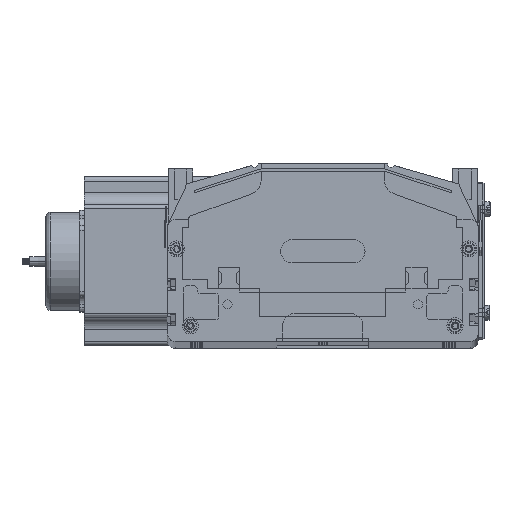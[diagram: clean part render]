
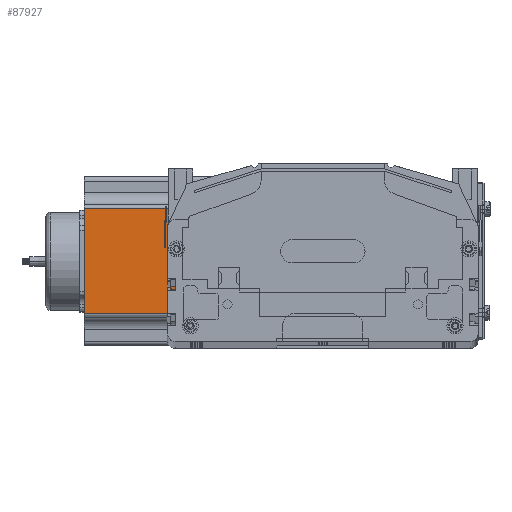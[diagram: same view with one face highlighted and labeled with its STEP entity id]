
A CAD part, top view. The second image highlights one B-rep face of the part: STEP entity #87927.
In plain terms, the highlighted planar face has unit normal (0, 0, 1) as drawn and (0, -1, 0) by its records, which use the part's own axes.
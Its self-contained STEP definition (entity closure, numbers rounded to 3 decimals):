
#4733 = CARTESIAN_POINT ( 'NONE',  ( 88.952, 0., 0. ) ) ;
#4751 = AXIS2_PLACEMENT_3D ( 'NONE', #4904, #4902, #4901 ) ;
#4787 = LINE ( 'NONE', #4833, #4831 ) ;
#4789 = LINE ( 'NONE', #4811, #4815 ) ;
#4805 = CARTESIAN_POINT ( 'NONE',  ( 21.048, 0., 0. ) ) ;
#4810 = DIRECTION ( 'NONE',  ( 0., 0., 1. ) ) ;
#4811 = CARTESIAN_POINT ( 'NONE',  ( 88.952, 0., 160.5 ) ) ;
#4815 = VECTOR ( 'NONE', #4810, 1000. ) ;
#4823 = FACE_OUTER_BOUND ( 'NONE', #87921, .T. ) ;
#4830 = DIRECTION ( 'NONE',  ( 1., 0., 0. ) ) ;
#4831 = VECTOR ( 'NONE', #4830, 1000. ) ;
#4833 = CARTESIAN_POINT ( 'NONE',  ( 0., 0., 0. ) ) ;
#4853 = DIRECTION ( 'NONE',  ( 1., 0., 0. ) ) ;
#4855 = CARTESIAN_POINT ( 'NONE',  ( 0., 0., 160.5 ) ) ;
#4856 = LINE ( 'NONE', #4855, #4932 ) ;
#4861 = PLANE ( 'NONE',  #4751 ) ;
#4901 = DIRECTION ( 'NONE',  ( 0., 0., 1. ) ) ;
#4902 = DIRECTION ( 'NONE',  ( 0., 1., 0. ) ) ;
#4904 = CARTESIAN_POINT ( 'NONE',  ( 0., 0., 160.5 ) ) ;
#4932 = VECTOR ( 'NONE', #4853, 1000. ) ;
#10654 = ORIENTED_EDGE ( 'NONE', *, *, #87823, .T. ) ;
#10902 = VERTEX_POINT ( 'NONE', #35979 ) ;
#10903 = VERTEX_POINT ( 'NONE', #36152 ) ;
#35979 = CARTESIAN_POINT ( 'NONE',  ( 21.048, 0., 160.5 ) ) ;
#36152 = CARTESIAN_POINT ( 'NONE',  ( 88.952, 0., 160.5 ) ) ;
#84790 = DIRECTION ( 'NONE',  ( 0., 0., -1. ) ) ;
#84792 = VECTOR ( 'NONE', #84790, 1000. ) ;
#84793 = CARTESIAN_POINT ( 'NONE',  ( 21.048, 0., 160.5 ) ) ;
#84798 = LINE ( 'NONE', #84793, #84792 ) ;
#87282 = ORIENTED_EDGE ( 'NONE', *, *, #87928, .F. ) ;
#87823 = EDGE_CURVE ( 'NONE', #10902, #87938, #84798, .T. ) ;
#87921 = EDGE_LOOP ( 'NONE', ( #87929, #88295, #87282, #10654 ) ) ;
#87927 = ADVANCED_FACE ( 'NONE', ( #4823 ), #4861, .F. ) ;
#87928 = EDGE_CURVE ( 'NONE', #10902, #10903, #4856, .T. ) ;
#87929 = ORIENTED_EDGE ( 'NONE', *, *, #87937, .T. ) ;
#87932 = VERTEX_POINT ( 'NONE', #4733 ) ;
#87936 = EDGE_CURVE ( 'NONE', #87932, #10903, #4789, .T. ) ;
#87937 = EDGE_CURVE ( 'NONE', #87938, #87932, #4787, .T. ) ;
#87938 = VERTEX_POINT ( 'NONE', #4805 ) ;
#88295 = ORIENTED_EDGE ( 'NONE', *, *, #87936, .T. ) ;
